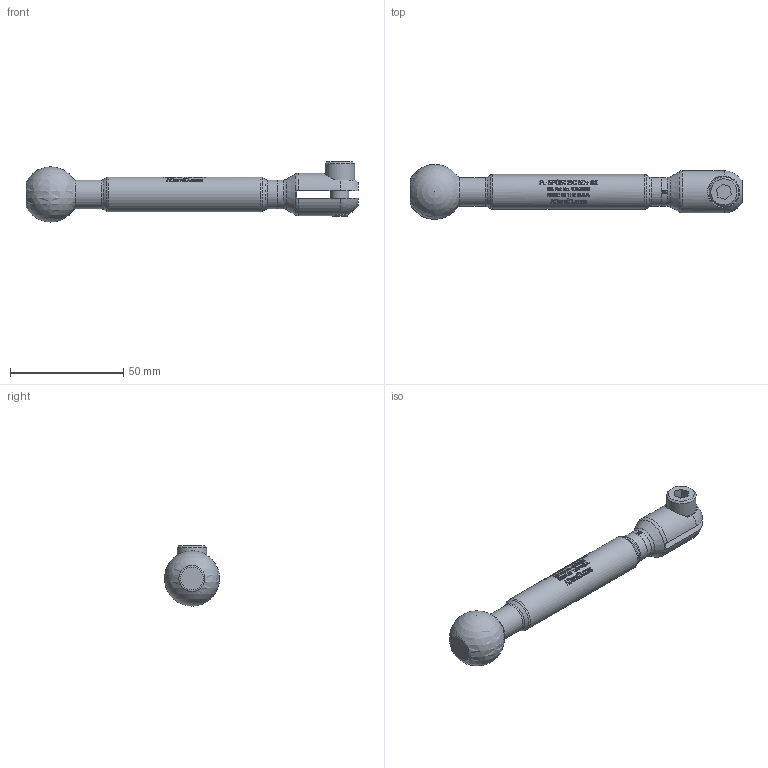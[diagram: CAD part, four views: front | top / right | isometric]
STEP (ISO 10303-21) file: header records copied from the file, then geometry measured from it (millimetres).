
FILE_DESCRIPTION(/* description */ (''),/* implementation_level */ '2;1');
FILE_NAME(/* name */ 'C:\Users\Doug Biddinger\Desktop\ADandD Website 3-28-18\PL\PL-SPOSTEXT5IN-BK.stp',/* time_stamp */ '2018-03-28T15:53:45-04:00',/* author */ ('Doug Biddinger'),/* organization */ (''),/* preprocessor_version */ 'ST-DEVELOPER v16.13',/* originating_system */ 'Autodesk Inventor 2018',/* authorisation */ '');
FILE_SCHEMA (('AUTOMOTIVE_DESIGN { 1 0 10303 214 3 1 1 }'));
Length unit declared in the file: inch
Products named in the file (5): PL-SPOST5IN-BK; 60105; 60054; 60032; 60040
Assembly tree (4 placements, depth 2):
  PL-SPOST5IN-BK
    60105
    60054
    60032
    60040
Bounding box: 146.29 x 24.24 x 26.54 mm (x, y, z)
Volume: 30018 mm3; surface area: 12058.5 mm2
Topology: 4 solids, 4 shells, 977 faces, 2629 edges, 1744 vertices
Faces by surface type: plane 446, bspline 401, cylinder 104, torus 12, cone 11, sphere 3
Full cylindrical faces by diameter (mm): 6.655 x1, 7.912 x1, 7.95 x1, 8 x1, 8.357 x1, 9.487 x1, 9.525 x1, 9.589 x1, 12.649 x1, 12.7 x2, 13 x1, 15.367 x1
Entity records: 39399 total; most frequent: CARTESIAN_POINT 17118, ORIENTED_EDGE 5156, DIRECTION 3466, EDGE_CURVE 2578, VERTEX_POINT 1731, LINE 1256, VECTOR 1256, AXIS2_PLACEMENT_3D 1105
